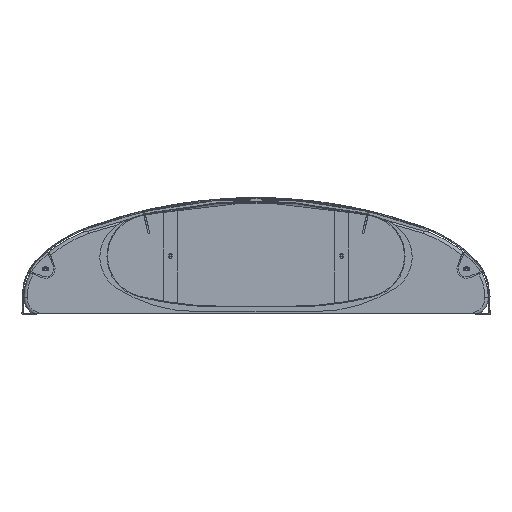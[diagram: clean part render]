
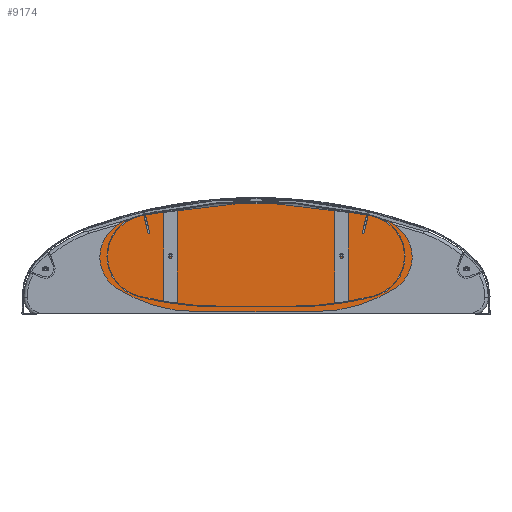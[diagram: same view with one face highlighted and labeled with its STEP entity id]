
A CAD part, front view. The second image highlights one B-rep face of the part: STEP entity #9174.
In plain terms, the highlighted planar face has unit normal (0, -1, 0).
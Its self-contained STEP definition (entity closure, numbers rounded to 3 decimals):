
#160 = CARTESIAN_POINT ( 'NONE',  ( 179.05, -2., 465.25 ) ) ;
#528 = DIRECTION ( 'NONE',  ( 0., 0., -1. ) ) ;
#949 = AXIS2_PLACEMENT_3D ( 'NONE', #7010, #4305, #5402 ) ;
#1067 = VERTEX_POINT ( 'NONE', #16461 ) ;
#1085 = EDGE_CURVE ( 'NONE', #14738, #8375, #14621, .T. ) ;
#1150 = DIRECTION ( 'NONE',  ( 0., 0., -1. ) ) ;
#1335 = VERTEX_POINT ( 'NONE', #10444 ) ;
#1392 = CARTESIAN_POINT ( 'NONE',  ( 255.421, -2., 196.504 ) ) ;
#1575 = VERTEX_POINT ( 'NONE', #15251 ) ;
#1785 = CARTESIAN_POINT ( 'NONE',  ( -334.984, -2., 325.064 ) ) ;
#1799 = ORIENTED_EDGE ( 'NONE', *, *, #4622, .T. ) ;
#1830 = CARTESIAN_POINT ( 'NONE',  ( 0., -2., 364.04 ) ) ;
#1979 = DIRECTION ( 'NONE',  ( 0., 0., 1. ) ) ;
#2292 = VECTOR ( 'NONE', #12856, 1000. ) ;
#2388 = ORIENTED_EDGE ( 'NONE', *, *, #4371, .F. ) ;
#2489 = CIRCLE ( 'NONE', #8423, 3. ) ;
#2528 = CIRCLE ( 'NONE', #16565, 435. ) ;
#2600 = DIRECTION ( 'NONE',  ( 0., -1., 0. ) ) ;
#2641 = DIRECTION ( 'NONE',  ( 0., -1., 0. ) ) ;
#2904 = FACE_BOUND ( 'NONE', #9487, .T. ) ;
#3023 = CARTESIAN_POINT ( 'NONE',  ( -255.421, -2., 199.504 ) ) ;
#3118 = DIRECTION ( 'NONE',  ( 0., 0., 1. ) ) ;
#3240 = VERTEX_POINT ( 'NONE', #4423 ) ;
#3387 = EDGE_CURVE ( 'NONE', #14016, #4897, #11329, .T. ) ;
#3724 = CARTESIAN_POINT ( 'NONE',  ( 334.984, -2., 325.064 ) ) ;
#3782 = CARTESIAN_POINT ( 'NONE',  ( -355.595, -2., 192.382 ) ) ;
#3792 = DIRECTION ( 'NONE',  ( 0., 1., 0. ) ) ;
#3923 = CIRCLE ( 'NONE', #6895, 110. ) ;
#3956 = EDGE_CURVE ( 'NONE', #4897, #3240, #13879, .T. ) ;
#3986 = CARTESIAN_POINT ( 'NONE',  ( -433.513, -2., 270.026 ) ) ;
#4298 = DIRECTION ( 'NONE',  ( 0., -1., 0. ) ) ;
#4305 = DIRECTION ( 'NONE',  ( 0., 1., 0. ) ) ;
#4371 = EDGE_CURVE ( 'NONE', #1335, #14016, #3923, .T. ) ;
#4381 = DIRECTION ( 'NONE',  ( 0., 0., 1. ) ) ;
#4423 = CARTESIAN_POINT ( 'NONE',  ( -179.05, -2., 30.25 ) ) ;
#4592 = CARTESIAN_POINT ( 'NONE',  ( 255.421, -2., 199.504 ) ) ;
#4622 = EDGE_CURVE ( 'NONE', #9296, #1067, #10643, .T. ) ;
#4896 = EDGE_CURVE ( 'NONE', #14738, #1575, #14975, .T. ) ;
#4897 = VERTEX_POINT ( 'NONE', #16184 ) ;
#4984 = ORIENTED_EDGE ( 'NONE', *, *, #10472, .T. ) ;
#5400 = ORIENTED_EDGE ( 'NONE', *, *, #3956, .F. ) ;
#5402 = DIRECTION ( 'NONE',  ( 0., 0., -1. ) ) ;
#5444 = DIRECTION ( 'NONE',  ( 0., 0., 1. ) ) ;
#5579 = CARTESIAN_POINT ( 'NONE',  ( -255.421, -2., 196.504 ) ) ;
#5648 = VERTEX_POINT ( 'NONE', #1830 ) ;
#5759 = CIRCLE ( 'NONE', #8435, 1459. ) ;
#6125 = CARTESIAN_POINT ( 'NONE',  ( 0., -2., -1094.96 ) ) ;
#6412 = DIRECTION ( 'NONE',  ( 0., 0., 1. ) ) ;
#6465 = ORIENTED_EDGE ( 'NONE', *, *, #3387, .F. ) ;
#6543 = AXIS2_PLACEMENT_3D ( 'NONE', #15354, #3792, #6412 ) ;
#6549 = DIRECTION ( 'NONE',  ( 0., 1., 0. ) ) ;
#6776 = DIRECTION ( 'NONE',  ( 0., 0., 1. ) ) ;
#6878 = CIRCLE ( 'NONE', #9552, 3. ) ;
#6888 = FACE_OUTER_BOUND ( 'NONE', #11737, .T. ) ;
#6895 = AXIS2_PLACEMENT_3D ( 'NONE', #15817, #9553, #6776 ) ;
#6902 = AXIS2_PLACEMENT_3D ( 'NONE', #3782, #2600, #1150 ) ;
#7010 = CARTESIAN_POINT ( 'NONE',  ( 255.421, -2., 196.504 ) ) ;
#7048 = CARTESIAN_POINT ( 'NONE',  ( 355.595, -2., 192.382 ) ) ;
#7246 = ORIENTED_EDGE ( 'NONE', *, *, #13618, .T. ) ;
#7383 = ORIENTED_EDGE ( 'NONE', *, *, #11601, .F. ) ;
#7474 = CARTESIAN_POINT ( 'NONE',  ( 179.05, -2., 30.25 ) ) ;
#7685 = AXIS2_PLACEMENT_3D ( 'NONE', #10150, #2641, #12926 ) ;
#7788 = ORIENTED_EDGE ( 'NONE', *, *, #4896, .T. ) ;
#7906 = ORIENTED_EDGE ( 'NONE', *, *, #1085, .F. ) ;
#7950 = AXIS2_PLACEMENT_3D ( 'NONE', #6125, #9655, #1979 ) ;
#8041 = EDGE_CURVE ( 'NONE', #5648, #11513, #11710, .T. ) ;
#8274 = ORIENTED_EDGE ( 'NONE', *, *, #8041, .F. ) ;
#8306 = CARTESIAN_POINT ( 'NONE',  ( -179.05, -2., 465.25 ) ) ;
#8375 = VERTEX_POINT ( 'NONE', #1785 ) ;
#8423 = AXIS2_PLACEMENT_3D ( 'NONE', #5579, #4298, #4381 ) ;
#8435 = AXIS2_PLACEMENT_3D ( 'NONE', #9367, #15804, #14684 ) ;
#8839 = VERTEX_POINT ( 'NONE', #3023 ) ;
#9007 = AXIS2_PLACEMENT_3D ( 'NONE', #15714, #14435, #10638 ) ;
#9106 = ORIENTED_EDGE ( 'NONE', *, *, #10893, .F. ) ;
#9174 = ADVANCED_FACE ( 'NONE', ( #2904, #9316, #6888 ), #11841, .F. ) ;
#9296 = VERTEX_POINT ( 'NONE', #4592 ) ;
#9316 = FACE_BOUND ( 'NONE', #15019, .T. ) ;
#9357 = CARTESIAN_POINT ( 'NONE',  ( 415.349, -2., 100.026 ) ) ;
#9367 = CARTESIAN_POINT ( 'NONE',  ( 0., -2., -1094.96 ) ) ;
#9487 = EDGE_LOOP ( 'NONE', ( #1799, #4984 ) ) ;
#9552 = AXIS2_PLACEMENT_3D ( 'NONE', #1392, #6549, #15581 ) ;
#9553 = DIRECTION ( 'NONE',  ( 0., 1., 0. ) ) ;
#9641 = DIRECTION ( 'NONE',  ( 0., -1., 0. ) ) ;
#9655 = DIRECTION ( 'NONE',  ( 0., 1., 0. ) ) ;
#10150 = CARTESIAN_POINT ( 'NONE',  ( -255.421, -2., 196.504 ) ) ;
#10348 = AXIS2_PLACEMENT_3D ( 'NONE', #7048, #12176, #5444 ) ;
#10444 = CARTESIAN_POINT ( 'NONE',  ( 433.513, -2., 270.026 ) ) ;
#10472 = EDGE_CURVE ( 'NONE', #1067, #9296, #6878, .T. ) ;
#10638 = DIRECTION ( 'NONE',  ( 0., 0., -1. ) ) ;
#10643 = CIRCLE ( 'NONE', #949, 3. ) ;
#10893 = EDGE_CURVE ( 'NONE', #8839, #13629, #11177, .T. ) ;
#11157 = CIRCLE ( 'NONE', #9007, 205.805 ) ;
#11177 = CIRCLE ( 'NONE', #7685, 3. ) ;
#11320 = ORIENTED_EDGE ( 'NONE', *, *, #13193, .T. ) ;
#11329 = CIRCLE ( 'NONE', #15655, 435. ) ;
#11513 = VERTEX_POINT ( 'NONE', #3724 ) ;
#11601 = EDGE_CURVE ( 'NONE', #8375, #5648, #5759, .T. ) ;
#11710 = CIRCLE ( 'NONE', #7950, 1459. ) ;
#11737 = EDGE_LOOP ( 'NONE', ( #2388, #7246, #8274, #7383, #7906, #7788, #11320, #5400, #6465 ) ) ;
#11841 = PLANE ( 'NONE',  #10348 ) ;
#12049 = DIRECTION ( 'NONE',  ( 0., 1., 0. ) ) ;
#12176 = DIRECTION ( 'NONE',  ( 0., 1., 0. ) ) ;
#12278 = ORIENTED_EDGE ( 'NONE', *, *, #15210, .F. ) ;
#12856 = DIRECTION ( 'NONE',  ( -1., 0., 0. ) ) ;
#12926 = DIRECTION ( 'NONE',  ( 0., 0., 1. ) ) ;
#13193 = EDGE_CURVE ( 'NONE', #1575, #3240, #2528, .T. ) ;
#13618 = EDGE_CURVE ( 'NONE', #1335, #11513, #11157, .T. ) ;
#13629 = VERTEX_POINT ( 'NONE', #14694 ) ;
#13879 = LINE ( 'NONE', #7474, #2292 ) ;
#14016 = VERTEX_POINT ( 'NONE', #9357 ) ;
#14435 = DIRECTION ( 'NONE',  ( 0., -1., 0. ) ) ;
#14621 = CIRCLE ( 'NONE', #6543, 205.805 ) ;
#14684 = DIRECTION ( 'NONE',  ( 0., 0., 1. ) ) ;
#14694 = CARTESIAN_POINT ( 'NONE',  ( -255.421, -2., 193.504 ) ) ;
#14738 = VERTEX_POINT ( 'NONE', #3986 ) ;
#14975 = CIRCLE ( 'NONE', #6902, 110. ) ;
#15019 = EDGE_LOOP ( 'NONE', ( #9106, #12278 ) ) ;
#15210 = EDGE_CURVE ( 'NONE', #13629, #8839, #2489, .T. ) ;
#15251 = CARTESIAN_POINT ( 'NONE',  ( -415.349, -2., 100.026 ) ) ;
#15354 = CARTESIAN_POINT ( 'NONE',  ( -287.732, -2., 124.757 ) ) ;
#15581 = DIRECTION ( 'NONE',  ( 0., 0., -1. ) ) ;
#15655 = AXIS2_PLACEMENT_3D ( 'NONE', #160, #12049, #3118 ) ;
#15714 = CARTESIAN_POINT ( 'NONE',  ( 287.732, -2., 124.757 ) ) ;
#15804 = DIRECTION ( 'NONE',  ( 0., 1., 0. ) ) ;
#15817 = CARTESIAN_POINT ( 'NONE',  ( 355.595, -2., 192.382 ) ) ;
#16184 = CARTESIAN_POINT ( 'NONE',  ( 179.05, -2., 30.25 ) ) ;
#16461 = CARTESIAN_POINT ( 'NONE',  ( 255.421, -2., 193.504 ) ) ;
#16565 = AXIS2_PLACEMENT_3D ( 'NONE', #8306, #9641, #528 ) ;
